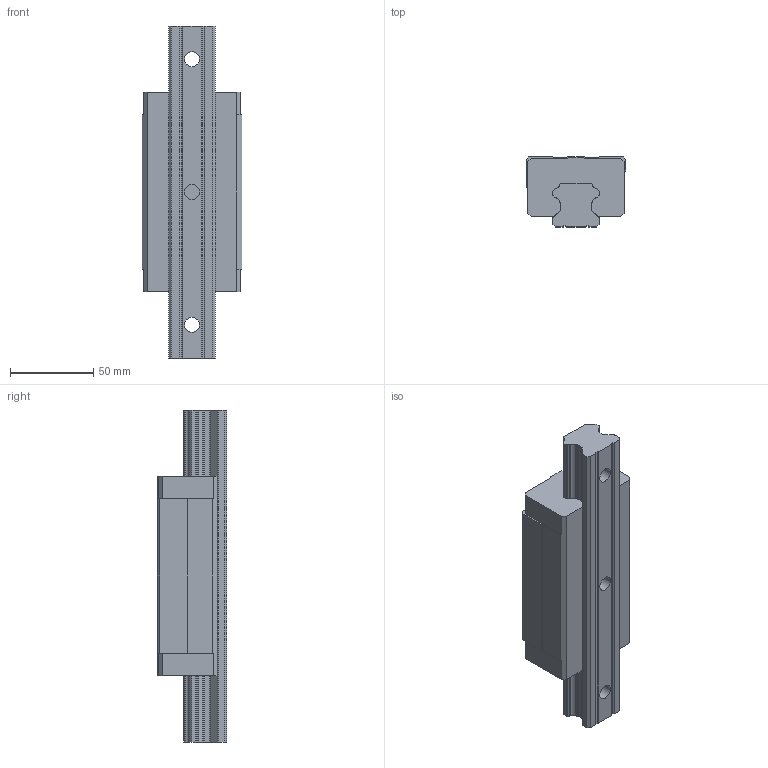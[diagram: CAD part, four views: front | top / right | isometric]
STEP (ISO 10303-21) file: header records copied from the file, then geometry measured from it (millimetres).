
FILE_DESCRIPTION (( 'STEP AP214' ), '1' );
FILE_NAME ('2.1040 Lineaarikelkka HGL30HA.STEP', '2025-09-19T06:36:21', ( '' ), ( '' ), 'SwSTEP 2.0', 'SolidWorks 2025', '' );
FILE_SCHEMA (( 'AUTOMOTIVE_DESIGN' ));
Length unit declared in the file: millimetre
Products named in the file (1): 2.1040 Lineaarikelkka HGL30HA
Bounding box: 60 x 42 x 200 mm (x, y, z)
Volume: 311184.1 mm3; surface area: 57736 mm2
Topology: 2 solids, 2 shells, 159 faces, 444 edges, 296 vertices
Faces by surface type: plane 97, cylinder 62
Entity records: 6927 total; most frequent: CARTESIAN_POINT 1029, ORIENTED_EDGE 888, DIRECTION 814, EDGE_CURVE 444, LINE 308, VECTOR 308, VERTEX_POINT 296, AXIS2_PLACEMENT_3D 253
